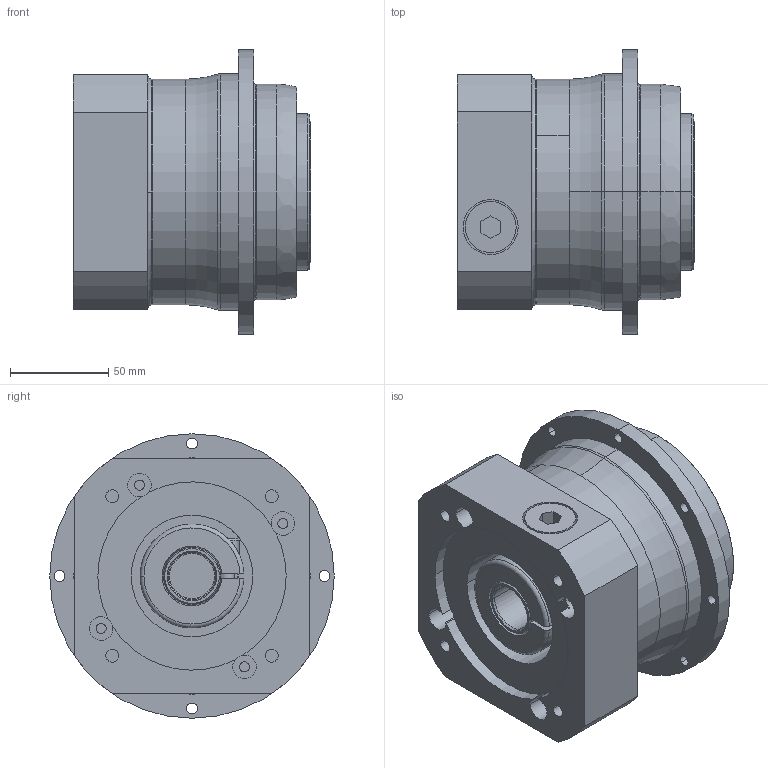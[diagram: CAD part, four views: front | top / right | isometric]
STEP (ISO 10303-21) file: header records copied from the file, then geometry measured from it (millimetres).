
FILE_DESCRIPTION(('STEP AP214'),'1');
FILE_NAME('20170315_111135505.stp','2017-03-15T10:11:36',(''),(''),'XStep 1.0','it-motive AG (itm_Acis_A0018_00R.dll)',' ');
FILE_SCHEMA(('automotive_design'));
Length unit declared in the file: millimetre
Products named in the file (6): Abtrieb_TP_m080; Antrieb_MF1_m080_G; 1; Abtriebsflansch_TP_m080_0; ADP; vs_3_point
Bounding box: 121 x 145 x 145 mm (x, y, z)
Volume: 1234035.9 mm3; surface area: 183567.4 mm2
Topology: 6 solids, 6 shells, 286 faces, 691 edges, 425 vertices
Faces by surface type: cylinder 131, plane 67, cone 50, torus 38
Entity records: 11393 total; most frequent: CARTESIAN_POINT 2046, DIRECTION 1617, ORIENTED_EDGE 1330, AXIS2_PLACEMENT_3D 684, EDGE_CURVE 665, VERTEX_POINT 425, CIRCLE 392, EDGE_LOOP 354
